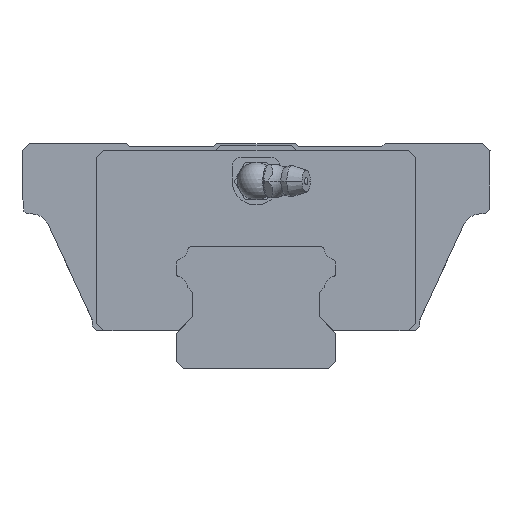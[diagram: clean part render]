
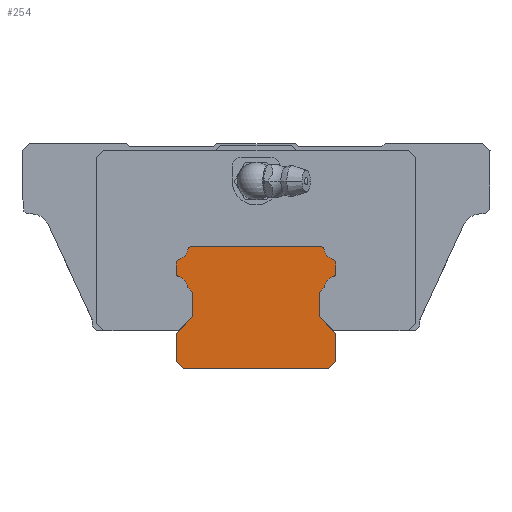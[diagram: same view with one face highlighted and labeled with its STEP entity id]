
A CAD part, front view. The second image highlights one B-rep face of the part: STEP entity #254.
In plain terms, the highlighted planar face has unit normal (0, -1, 0).
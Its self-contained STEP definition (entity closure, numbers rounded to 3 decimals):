
#254=ADVANCED_FACE('',(#624),#625,.T.);
#624=FACE_OUTER_BOUND('',#1272,.T.);
#625=PLANE('',#1273);
#1272=EDGE_LOOP('',(#2323,#2324,#2325,#2326,#2327,#2328,#2329,#2330,#2331,#2332,#2333,#2334,#2335,#2336,#2337,#2338,#2339,#2340,#2341,#2342,#2343,#2344,#2345,#2346));
#1273=AXIS2_PLACEMENT_3D('',#2347,#2348,#2349);
#2323=ORIENTED_EDGE('',*,*,#4124,.T.);
#2324=ORIENTED_EDGE('',*,*,#4107,.T.);
#2325=ORIENTED_EDGE('',*,*,#4137,.T.);
#2326=ORIENTED_EDGE('',*,*,#4095,.T.);
#2327=ORIENTED_EDGE('',*,*,#4066,.T.);
#2328=ORIENTED_EDGE('',*,*,#4070,.T.);
#2329=ORIENTED_EDGE('',*,*,#4122,.T.);
#2330=ORIENTED_EDGE('',*,*,#4059,.T.);
#2331=ORIENTED_EDGE('',*,*,#4105,.T.);
#2332=ORIENTED_EDGE('',*,*,#4051,.T.);
#2333=ORIENTED_EDGE('',*,*,#4140,.T.);
#2334=ORIENTED_EDGE('',*,*,#4143,.T.);
#2335=ORIENTED_EDGE('',*,*,#4119,.T.);
#2336=ORIENTED_EDGE('',*,*,#4115,.T.);
#2337=ORIENTED_EDGE('',*,*,#4144,.T.);
#2338=ORIENTED_EDGE('',*,*,#4138,.T.);
#2339=ORIENTED_EDGE('',*,*,#4079,.T.);
#2340=ORIENTED_EDGE('',*,*,#4129,.T.);
#2341=ORIENTED_EDGE('',*,*,#4126,.T.);
#2342=ORIENTED_EDGE('',*,*,#4073,.T.);
#2343=ORIENTED_EDGE('',*,*,#4087,.T.);
#2344=ORIENTED_EDGE('',*,*,#4092,.T.);
#2345=ORIENTED_EDGE('',*,*,#4142,.T.);
#2346=ORIENTED_EDGE('',*,*,#4111,.T.);
#2347=CARTESIAN_POINT('',(-16.2,-95.0,20.283));
#2348=DIRECTION('',(0.0,-1.0,0.0));
#2349=DIRECTION('',(0.0,0.0,-1.0));
#4051=EDGE_CURVE('',#4861,#4862,#4863,.T.);
#4059=EDGE_CURVE('',#4875,#4876,#4877,.T.);
#4066=EDGE_CURVE('',#4887,#4888,#4889,.T.);
#4070=EDGE_CURVE('',#4888,#4895,#4896,.T.);
#4073=EDGE_CURVE('',#4900,#4901,#4902,.T.);
#4079=EDGE_CURVE('',#4910,#4911,#4912,.T.);
#4087=EDGE_CURVE('',#4901,#4924,#4925,.T.);
#4092=EDGE_CURVE('',#4924,#4932,#4933,.T.);
#4095=EDGE_CURVE('',#4937,#4887,#4938,.T.);
#4105=EDGE_CURVE('',#4876,#4861,#4951,.T.);
#4107=EDGE_CURVE('',#4953,#4954,#4955,.T.);
#4111=EDGE_CURVE('',#4961,#4962,#4963,.T.);
#4115=EDGE_CURVE('',#4969,#4970,#4971,.T.);
#4119=EDGE_CURVE('',#4977,#4969,#4978,.T.);
#4122=EDGE_CURVE('',#4895,#4875,#4982,.T.);
#4124=EDGE_CURVE('',#4962,#4953,#4984,.T.);
#4126=EDGE_CURVE('',#4986,#4900,#4987,.T.);
#4129=EDGE_CURVE('',#4911,#4986,#4991,.T.);
#4137=EDGE_CURVE('',#4954,#4937,#5001,.T.);
#4138=EDGE_CURVE('',#5002,#4910,#5003,.T.);
#4140=EDGE_CURVE('',#4862,#5005,#5006,.T.);
#4142=EDGE_CURVE('',#4932,#4961,#5008,.T.);
#4143=EDGE_CURVE('',#5005,#4977,#5009,.T.);
#4144=EDGE_CURVE('',#4970,#5002,#5010,.T.);
#4861=VERTEX_POINT('',#6271);
#4862=VERTEX_POINT('',#6272);
#4863=LINE('',#6273,#6274);
#4875=VERTEX_POINT('',#6289);
#4876=VERTEX_POINT('',#6290);
#4877=LINE('',#6291,#6292);
#4887=VERTEX_POINT('',#6305);
#4888=VERTEX_POINT('',#6306);
#4889=LINE('',#6307,#6308);
#4895=VERTEX_POINT('',#6317);
#4896=LINE('',#6318,#6319);
#4900=VERTEX_POINT('',#6325);
#4901=VERTEX_POINT('',#6326);
#4902=CIRCLE('',#6327,0.8);
#4910=VERTEX_POINT('',#6337);
#4911=VERTEX_POINT('',#6338);
#4912=LINE('',#6339,#6340);
#4924=VERTEX_POINT('',#6355);
#4925=LINE('',#6356,#6357);
#4932=VERTEX_POINT('',#6366);
#4933=CIRCLE('',#6367,0.8);
#4937=VERTEX_POINT('',#6372);
#4938=LINE('',#6373,#6374);
#4951=LINE('',#6389,#6390);
#4953=VERTEX_POINT('',#6393);
#4954=VERTEX_POINT('',#6394);
#4955=CIRCLE('',#6395,0.8);
#4961=VERTEX_POINT('',#6403);
#4962=VERTEX_POINT('',#6404);
#4963=CIRCLE('',#6405,0.8);
#4969=VERTEX_POINT('',#6413);
#4970=VERTEX_POINT('',#6414);
#4971=LINE('',#6415,#6416);
#4977=VERTEX_POINT('',#6425);
#4978=LINE('',#6426,#6427);
#4982=LINE('',#6433,#6434);
#4984=LINE('',#6437,#6438);
#4986=VERTEX_POINT('',#6441);
#4987=CIRCLE('',#6442,2.6);
#4991=CIRCLE('',#6447,0.8);
#5001=CIRCLE('',#6459,2.6);
#5002=VERTEX_POINT('',#6460);
#5003=CIRCLE('',#6461,0.8);
#5005=VERTEX_POINT('',#6464);
#5006=LINE('',#6465,#6466);
#5008=CIRCLE('',#6469,2.6);
#5009=LINE('',#6470,#6471);
#5010=CIRCLE('',#6472,2.6);
#6271=CARTESIAN_POINT('',(15.5,-95.0,0.0));
#6272=CARTESIAN_POINT('',(17.0,-95.0,1.5));
#6273=CARTESIAN_POINT('',(15.5,-95.0,0.0));
#6274=VECTOR('',#7914,1000.0);
#6289=CARTESIAN_POINT('',(-17.0,-95.0,1.5));
#6290=CARTESIAN_POINT('',(-15.5,-95.0,0.));
#6291=CARTESIAN_POINT('',(-17.0,-95.0,1.5));
#6292=VECTOR('',#7930,1000.0);
#6305=CARTESIAN_POINT('',(-13.5,-95.0,16.2));
#6306=CARTESIAN_POINT('',(-13.5,-95.0,11.));
#6307=CARTESIAN_POINT('',(-13.5,-95.0,16.2));
#6308=VECTOR('',#7943,1000.0);
#6317=CARTESIAN_POINT('',(-17.0,-95.0,7.5));
#6318=CARTESIAN_POINT('',(-13.5,-95.0,11.));
#6319=VECTOR('',#7947,1000.0);
#6325=CARTESIAN_POINT('',(14.573,-95.0,25.338));
#6326=CARTESIAN_POINT('',(13.785,-95.0,26.0));
#6327=AXIS2_PLACEMENT_3D('',#7950,#7951,#7952);
#6337=CARTESIAN_POINT('',(17.0,-95.0,20.283));
#6338=CARTESIAN_POINT('',(17.0,-95.0,22.517));
#6339=CARTESIAN_POINT('',(17.0,-95.0,20.283));
#6340=VECTOR('',#7964,1000.0);
#6355=CARTESIAN_POINT('',(-13.785,-95.0,26.0));
#6356=CARTESIAN_POINT('',(13.785,-95.0,26.0));
#6357=VECTOR('',#7980,1000.0);
#6366=CARTESIAN_POINT('',(-14.573,-95.0,25.338));
#6367=AXIS2_PLACEMENT_3D('',#7989,#7990,#7991);
#6372=CARTESIAN_POINT('',(-14.545,-95.0,17.245));
#6373=CARTESIAN_POINT('',(-14.545,-95.0,17.245));
#6374=VECTOR('',#7996,1000.0);
#6389=CARTESIAN_POINT('',(-15.5,-95.0,0.0));
#6390=VECTOR('',#8020,1000.0);
#6393=CARTESIAN_POINT('',(-17.0,-95.0,20.283));
#6394=CARTESIAN_POINT('',(-16.42,-95.0,19.514));
#6395=AXIS2_PLACEMENT_3D('',#8022,#8023,#8024);
#6403=CARTESIAN_POINT('',(-16.42,-95.0,23.286));
#6404=CARTESIAN_POINT('',(-17.0,-95.0,22.517));
#6405=AXIS2_PLACEMENT_3D('',#8030,#8031,#8032);
#6413=CARTESIAN_POINT('',(13.5,-95.0,16.2));
#6414=CARTESIAN_POINT('',(14.545,-95.0,17.245));
#6415=CARTESIAN_POINT('',(13.5,-95.0,16.2));
#6416=VECTOR('',#8038,1000.0);
#6425=CARTESIAN_POINT('',(13.5,-95.0,11.));
#6426=CARTESIAN_POINT('',(13.5,-95.0,11.));
#6427=VECTOR('',#8042,1000.0);
#6433=CARTESIAN_POINT('',(-17.0,-95.0,7.5));
#6434=VECTOR('',#8045,1000.0);
#6437=CARTESIAN_POINT('',(-17.0,-95.0,22.517));
#6438=VECTOR('',#8047,1000.0);
#6441=CARTESIAN_POINT('',(16.42,-95.0,23.286));
#6442=AXIS2_PLACEMENT_3D('',#8049,#8050,#8051);
#6447=AXIS2_PLACEMENT_3D('',#8056,#8057,#8058);
#6459=AXIS2_PLACEMENT_3D('',#8076,#8077,#8078);
#6460=CARTESIAN_POINT('',(16.42,-95.0,19.514));
#6461=AXIS2_PLACEMENT_3D('',#8079,#8080,#8081);
#6464=CARTESIAN_POINT('',(17.0,-95.0,7.5));
#6465=CARTESIAN_POINT('',(17.0,-95.0,1.5));
#6466=VECTOR('',#8083,1000.0);
#6469=AXIS2_PLACEMENT_3D('',#8085,#8086,#8087);
#6470=CARTESIAN_POINT('',(17.0,-95.0,7.5));
#6471=VECTOR('',#8088,1000.0);
#6472=AXIS2_PLACEMENT_3D('',#8089,#8090,#8091);
#7914=DIRECTION('',(0.707,0.0,0.707));
#7930=DIRECTION('',(0.707,0.0,-0.707));
#7943=DIRECTION('',(0.0,0.0,-1.0));
#7947=DIRECTION('',(-0.707,0.0,-0.707));
#7950=CARTESIAN_POINT('',(13.785,-95.0,25.2));
#7951=DIRECTION('',(0.0,-1.0,0.0));
#7952=DIRECTION('',(1.0,0.0,0.0));
#7964=DIRECTION('',(0.0,0.0,1.0));
#7980=DIRECTION('',(-1.0,0.0,0.0));
#7989=CARTESIAN_POINT('',(-13.785,-95.0,25.2));
#7990=DIRECTION('',(0.0,-1.0,0.0));
#7991=DIRECTION('',(1.0,0.0,0.0));
#7996=DIRECTION('',(0.707,0.0,-0.707));
#8020=DIRECTION('',(1.0,0.0,0.0));
#8022=CARTESIAN_POINT('',(-16.2,-95.0,20.283));
#8023=DIRECTION('',(0.0,-1.0,0.0));
#8024=DIRECTION('',(1.0,0.0,0.0));
#8030=CARTESIAN_POINT('',(-16.2,-95.0,22.517));
#8031=DIRECTION('',(0.0,-1.0,0.0));
#8032=DIRECTION('',(1.0,0.0,0.0));
#8038=DIRECTION('',(0.707,0.0,0.707));
#8042=DIRECTION('',(0.0,0.0,1.0));
#8045=DIRECTION('',(0.0,0.0,-1.0));
#8047=DIRECTION('',(0.0,0.0,-1.0));
#8049=CARTESIAN_POINT('',(17.134,-95.0,25.786));
#8050=DIRECTION('',(0.0,1.0,0.));
#8051=DIRECTION('',(1.0,0.0,0.0));
#8056=CARTESIAN_POINT('',(16.2,-95.0,22.517));
#8057=DIRECTION('',(0.0,-1.0,0.0));
#8058=DIRECTION('',(1.0,0.0,0.0));
#8076=CARTESIAN_POINT('',(-17.134,-95.0,17.014));
#8077=DIRECTION('',(0.0,1.0,0.));
#8078=DIRECTION('',(1.0,0.0,0.0));
#8079=CARTESIAN_POINT('',(16.2,-95.0,20.283));
#8080=DIRECTION('',(0.0,-1.0,0.0));
#8081=DIRECTION('',(1.0,0.0,0.0));
#8083=DIRECTION('',(0.0,0.0,1.0));
#8085=CARTESIAN_POINT('',(-17.134,-95.0,25.786));
#8086=DIRECTION('',(0.0,1.0,0.));
#8087=DIRECTION('',(1.0,0.0,0.0));
#8088=DIRECTION('',(-0.707,0.0,0.707));
#8089=CARTESIAN_POINT('',(17.134,-95.0,17.014));
#8090=DIRECTION('',(0.0,1.0,0.));
#8091=DIRECTION('',(1.0,0.0,0.0));
